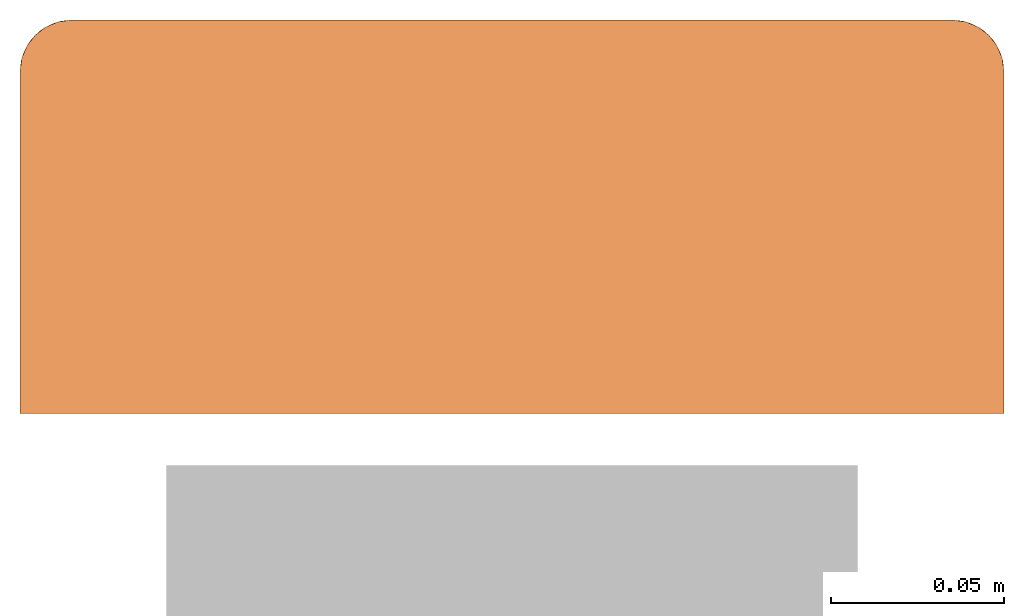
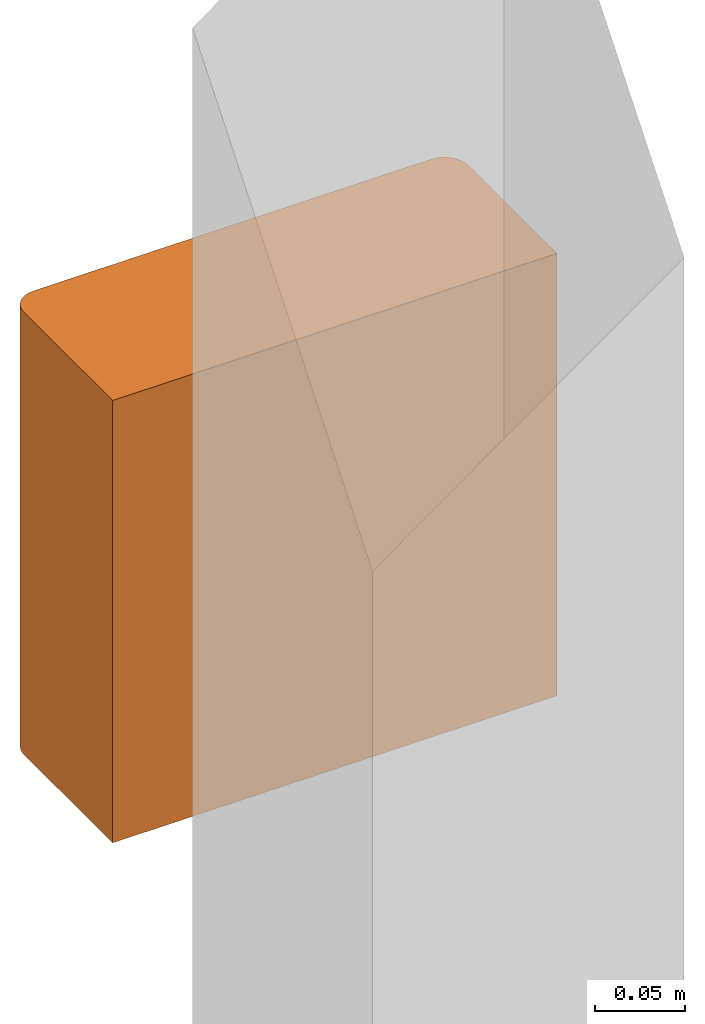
# One storey, part 2 of 2: 1 proxy.
"""IFC2X3 building model written with IfcOpenShell, lengths in millimetres."""

from ifc_helpers import new_model, entity, si_unit, converted_unit, derived_unit, direction, frame, origin, place, context, subcontext, project, spatial, faceted_brep, source, transform, mapped, element, save


model = new_model("IFC2X3")

# Units and contexts
model_context = context("Model", 3, precision=0.01, world=origin(), true_north=direction((6.12303176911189e-17, 1.0)))
context_of_model = context(None, 3, precision=0.01, world=origin(), true_north=direction((6.12303176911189e-17, 1.0)))
body_context = subcontext(model_context, "Body", "Model", "MODEL_VIEW")
ifc_project = project(units=[si_unit("LENGTHUNIT", "METRE", prefix="MILLI"), si_unit("AREAUNIT", "SQUARE_METRE"), si_unit("VOLUMEUNIT", "CUBIC_METRE"), converted_unit("PLANEANGLEUNIT", "DEGREE", entity("IfcRatioMeasure", 0.0174532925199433), si_unit("PLANEANGLEUNIT", "RADIAN"), dimensions=[0, 0, 0, 0, 0, 0, 0]), si_unit("MASSUNIT", "GRAM", prefix="KILO"), si_unit("TIMEUNIT", "SECOND"), si_unit("FREQUENCYUNIT", "HERTZ"), si_unit("THERMODYNAMICTEMPERATUREUNIT", "DEGREE_CELSIUS"), derived_unit("THERMALTRANSMITTANCEUNIT", [(si_unit("MASSUNIT", "GRAM", prefix="KILO"), 1), (si_unit("THERMODYNAMICTEMPERATUREUNIT", "KELVIN"), -1), (si_unit("TIMEUNIT", "SECOND"), -3)]), derived_unit("VOLUMETRICFLOWRATEUNIT", [(si_unit("LENGTHUNIT", "METRE"), 3), (si_unit("TIMEUNIT", "SECOND"), -1)]), si_unit("ELECTRICCURRENTUNIT", "AMPERE"), si_unit("ELECTRICVOLTAGEUNIT", "VOLT"), si_unit("POWERUNIT", "WATT"), si_unit("FORCEUNIT", "NEWTON", prefix="KILO"), si_unit("ILLUMINANCEUNIT", "LUX"), si_unit("LUMINOUSFLUXUNIT", "LUMEN"), si_unit("LUMINOUSINTENSITYUNIT", "CANDELA"), si_unit("PRESSUREUNIT", "PASCAL")], contexts=[model_context, context_of_model])

# Site, building, storey
site_placement = place(None, origin())
site = spatial("IfcSite", under=ifc_project, at=site_placement, Name="Default", CompositionType="ELEMENT")
building_placement = place(site_placement, origin())
building = spatial("IfcBuilding", under=site, at=building_placement, CompositionType="ELEMENT")
storey_placement = place(building_placement, origin())
storey = spatial("IfcBuildingStorey", under=building, at=storey_placement, Name="Level 1", CompositionType="ELEMENT", Elevation=0.0)

# Proxy
shared_shape = source(origin(), body_context, "Body", "Brep", [
    faceted_brep([(16.5952722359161, 114.0, 300.0), (12.7129865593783, 113.488887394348, 300.0), (9.09527223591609, 111.990381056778, 300.0), (5.98867051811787, 109.60660171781, 300.0), (3.60489117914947, 106.500000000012, 300.0), (2.10638484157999, 102.882285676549, 300.0), (1.595272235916, 99.0, 300.0), (1.595272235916, 0.0, 300.0), (286.595272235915, 0.0, 300.0), (286.595272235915, 99.0, 300.0), (286.084159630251, 102.882285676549, 300.0), (284.585653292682, 106.500000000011, 300.0), (282.201873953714, 109.60660171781, 300.0), (279.095272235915, 111.990381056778, 300.0), (275.477557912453, 113.488887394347, 300.0), (271.595272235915, 114.0, 300.0), (286.595272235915, 99.0, 0.0), (286.595272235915, 0.0, 0.0), (1.595272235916, 0.0, 0.0), (1.595272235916, 99.0, 0.0), (2.10638484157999, 102.882285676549, 0.0), (3.60489117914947, 106.500000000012, 0.0), (5.98867051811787, 109.60660171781, 0.0), (9.09527223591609, 111.990381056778, 0.0), (12.7129865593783, 113.488887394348, 0.0), (16.595272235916, 114.0, 0.0), (271.595272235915, 114.0, 0.0), (275.477557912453, 113.488887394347, 0.0), (279.095272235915, 111.990381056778, 0.0), (282.201873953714, 109.60660171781, 0.0), (284.585653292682, 106.500000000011, 0.0), (286.084159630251, 102.882285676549, 0.0), (286.595272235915, 99.0, 150.0), (285.453465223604, 104.740251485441, 150.0), (277.335523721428, 112.858192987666, 150.0), (280.726693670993, 110.900300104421, 88.1971478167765), (280.726693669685, 110.900300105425, 192.984169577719), (283.495572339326, 108.13142143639, 211.802852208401), (283.495572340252, 108.131421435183, 107.015830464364), (286.307051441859, 101.926354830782, 96.3438869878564), (274.521627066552, 113.711779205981, 203.65611301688), (286.307051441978, 101.926354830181, 190.299074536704), (271.595272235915, 114.0, 150.0), (274.521627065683, 113.711779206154, 109.700925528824), (234.479355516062, 114.0, 220.152585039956), (223.32329098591, 114.0, 222.841789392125), (237.950279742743, 114.0, 218.502181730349), (240.887887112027, 114.0, 216.023954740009), (243.099325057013, 114.0, 212.88059852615), (244.439413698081, 114.0, 209.278472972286), (244.820176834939, 114.0, 205.454055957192), (212.167226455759, 114.0, 225.530993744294), (201.011161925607, 114.0, 228.220198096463), (189.855097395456, 114.0, 230.909402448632), (178.415141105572, 114.0, 231.813280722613), (166.975184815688, 114.0, 232.717158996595), (155.535228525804, 114.0, 233.621037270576), (144.09527223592, 114.0, 234.524915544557), (244.216617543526, 114.0, 201.6584186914), (242.668359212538, 114.0, 198.140743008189), (240.277044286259, 114.0, 195.131962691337), (237.199661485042, 114.0, 192.829602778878), (233.638239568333, 114.0, 191.384812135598), (229.826584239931, 114.0, 190.892440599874), (144.095272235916, 114.0, 190.892440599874), (58.363960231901, 114.0, 190.892440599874), (54.5523049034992, 114.0, 191.384812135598), (50.9908829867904, 114.0, 192.829602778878), (47.9135001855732, 114.0, 195.131962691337), (45.522185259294, 114.0, 198.140743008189), (43.9739269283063, 114.0, 201.6584186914), (43.3703676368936, 114.0, 205.454055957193), (16.5952722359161, 114.0, 150.000024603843), (132.655315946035, 114.0, 233.621037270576), (43.751130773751, 114.0, 209.278472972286), (45.0912194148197, 114.0, 212.88059852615), (47.302657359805, 114.0, 216.023954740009), (50.2402647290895, 114.0, 218.502181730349), (53.7111889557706, 114.0, 220.152585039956), (64.8672534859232, 114.0, 222.841789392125), (76.0233180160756, 114.0, 225.530993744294), (87.179382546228, 114.0, 228.220198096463), (98.3354470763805, 114.0, 230.909402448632), (121.21535965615, 114.0, 232.717158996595), (109.775403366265, 114.0, 231.813280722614), (10.8550207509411, 112.858192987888, 150.0), (2.73707924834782, 104.740251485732, 150.0), (4.69497213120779, 108.1314214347, 88.1971477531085), (4.69497212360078, 108.131421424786, 192.984169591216), (7.46385078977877, 110.900300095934, 211.802852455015), (7.46385080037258, 110.900300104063, 107.015830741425), (13.6689173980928, 113.711779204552, 96.3438873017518), (1.88349303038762, 101.926354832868, 203.656112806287), (13.6689174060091, 113.711779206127, 190.299075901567), (1.595272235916, 99.0, 150.000226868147), (1.88349302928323, 101.926354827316, 109.700924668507), (234.479355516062, 112.0, 220.152585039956), (225.434980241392, 112.0, 222.332760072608), (212.167226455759, 112.0, 225.530993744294), (201.011161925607, 112.0, 228.220198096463), (189.855097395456, 112.0, 230.909402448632), (178.415141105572, 112.0, 231.813280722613), (166.975184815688, 112.0, 232.717158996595), (155.535228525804, 112.0, 233.621037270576), (144.09527223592, 112.0, 234.524915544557), (134.820742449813, 112.0, 233.792129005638), (121.21535965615, 112.0, 232.717158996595), (109.775403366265, 112.0, 231.813280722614), (98.3354470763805, 112.0, 230.909402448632), (87.179382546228, 112.0, 228.220198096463), (76.0233180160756, 112.0, 225.530993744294), (64.8672534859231, 112.0, 222.841789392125), (53.7111889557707, 112.0, 220.152585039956), (50.2402647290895, 112.0, 218.502181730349), (47.302657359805, 112.0, 216.023954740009), (45.0912194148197, 112.0, 212.88059852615), (43.751130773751, 112.0, 209.278472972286), (43.3703676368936, 112.0, 205.454055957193), (43.9739269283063, 112.0, 201.6584186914), (45.5221852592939, 112.0, 198.140743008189), (47.9135001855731, 112.0, 195.131962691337), (50.9908829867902, 112.0, 192.829602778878), (54.552304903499, 112.0, 191.384812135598), (58.3639602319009, 112.0, 190.892440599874), (144.095272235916, 112.0, 190.892440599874), (229.826584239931, 112.0, 190.892440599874), (233.638239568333, 112.0, 191.384812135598), (237.199661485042, 112.0, 192.829602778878), (240.277044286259, 112.0, 195.131962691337), (242.668359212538, 112.0, 198.140743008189), (244.216617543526, 112.0, 201.6584186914), (244.820176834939, 112.0, 205.454055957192), (244.439413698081, 112.0, 209.278472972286), (243.099325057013, 112.0, 212.88059852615), (240.887887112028, 112.0, 216.023954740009), (237.950279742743, 112.0, 218.502181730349), (3.595272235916, 2.0, 298.0), (3.595272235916, 97.0, 298.0), (4.10638484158, 100.882285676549, 298.0), (5.60489117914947, 104.500000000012, 298.0), (7.98867051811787, 107.60660171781, 298.0), (11.0952722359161, 109.990381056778, 298.0), (14.7129865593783, 111.488887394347, 298.0), (18.595272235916, 112.0, 298.0), (269.595272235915, 112.0, 298.0), (273.477557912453, 111.488887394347, 298.0), (277.095272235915, 109.990381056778, 298.0), (280.201873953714, 107.60660171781, 298.0), (282.585653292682, 104.500000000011, 298.0), (284.084159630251, 100.882285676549, 298.0), (284.595272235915, 97.0, 298.0), (284.595272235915, 2.0, 298.0), (273.477557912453, 111.488887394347, 2.0), (269.595272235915, 112.0, 2.0), (18.5952722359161, 112.0, 2.0), (14.7129865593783, 111.488887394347, 2.0), (11.0952722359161, 109.990381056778, 2.0), (7.98867051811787, 107.60660171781, 2.0), (5.60489117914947, 104.500000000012, 2.0), (4.10638484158, 100.882285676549, 2.0), (3.595272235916, 97.0, 2.0), (3.595272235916, 2.0, 2.0), (284.595272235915, 2.0, 2.0), (284.595272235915, 97.0, 2.0), (284.084159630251, 100.882285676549, 2.0), (282.585653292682, 104.500000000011, 2.0), (280.201873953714, 107.60660171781, 2.0), (277.095272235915, 109.990381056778, 2.0), (284.595272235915, 97.0, 150.0), (283.453465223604, 102.740251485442, 150.0), (278.726693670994, 108.90030010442, 88.330609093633), (275.335523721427, 110.858192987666, 150.0), (281.495572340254, 106.131421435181, 108.448476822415), (281.495572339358, 106.131421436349, 211.669390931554), (278.726693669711, 108.900300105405, 191.551523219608), (284.307051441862, 99.9263548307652, 97.6323178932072), (272.521627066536, 111.711779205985, 202.367682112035), (284.307051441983, 99.9263548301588, 192.59485574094), (272.521627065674, 111.711779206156, 107.405144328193), (269.595272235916, 112.0, 150.0), (18.5952722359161, 112.0, 150.0), (12.8550207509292, 110.858192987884, 150.0), (6.69497213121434, 106.131421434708, 88.3306090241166), (4.73707924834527, 102.740251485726, 150.0), (9.46385080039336, 108.900300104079, 108.448477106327), (9.46385079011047, 108.900300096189, 211.669391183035), (6.69497212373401, 106.13142142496, 191.551523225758), (15.6689173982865, 111.71177920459, 97.6323182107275), (3.88349303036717, 99.9263548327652, 202.367681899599), (15.6689174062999, 111.711779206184, 192.594857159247), (3.88349302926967, 99.9263548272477, 107.405143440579), (3.59527223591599, 97.0, 150.0)], [[[0, 1, 2, 3, 4, 5, 6, 7, 8, 9, 10, 11, 12, 13, 14, 15]], [[16, 17, 18, 19, 20, 21, 22, 23, 24, 25, 26, 27, 28, 29, 30, 31]], [[8, 17, 16, 32, 9]], [[33, 31, 30]], [[34, 35, 28]], [[36, 37, 38, 35]], [[38, 33, 30]], [[30, 29, 38]], [[39, 31, 33]], [[40, 15, 14]], [[41, 9, 32, 16, 39]], [[11, 10, 33]], [[31, 39, 16]], [[33, 38, 37]], [[34, 28, 27]], [[38, 29, 35]], [[37, 36, 12]], [[26, 42, 15, 40, 43]], [[29, 28, 35]], [[36, 34, 13]], [[34, 14, 13]], [[34, 40, 14]], [[11, 37, 12]], [[34, 36, 35]], [[33, 37, 11]], [[36, 13, 12]], [[41, 39, 33]], [[33, 10, 41]], [[9, 41, 10]], [[43, 40, 34]], [[34, 27, 43]], [[26, 43, 27]], [[15, 44, 45]], [[44, 15, 46]], [[47, 46, 15]], [[48, 47, 15]], [[49, 48, 15]], [[15, 50, 49]], [[50, 15, 42]], [[15, 45, 51]], [[15, 51, 52]], [[15, 52, 53]], [[15, 53, 54]], [[15, 54, 55]], [[15, 55, 56]], [[15, 56, 57]], [[15, 57, 0]], [[50, 42, 26]], [[58, 50, 26]], [[58, 26, 59]], [[60, 59, 26]], [[26, 61, 60]], [[61, 26, 62]], [[63, 62, 26]], [[26, 64, 63]], [[64, 26, 25]], [[65, 64, 25]], [[25, 66, 65]], [[66, 25, 67]], [[68, 67, 25]], [[68, 25, 69]], [[70, 69, 25]], [[70, 25, 71]], [[71, 25, 72]], [[71, 72, 0]], [[0, 57, 73]], [[74, 71, 0]], [[75, 74, 0]], [[76, 75, 0]], [[0, 77, 76]], [[77, 0, 78]], [[0, 79, 78]], [[0, 80, 79]], [[0, 81, 80]], [[0, 82, 81]], [[0, 73, 83]], [[0, 83, 84]], [[0, 84, 82]], [[85, 24, 23]], [[86, 87, 21]], [[88, 89, 90, 87]], [[90, 85, 23]], [[23, 22, 90]], [[91, 24, 85]], [[92, 6, 5]], [[93, 0, 72, 25, 91]], [[2, 1, 85]], [[24, 91, 25]], [[85, 90, 89]], [[86, 21, 20]], [[90, 22, 87]], [[89, 88, 3]], [[19, 94, 6, 92, 95]], [[22, 21, 87]], [[88, 86, 4]], [[86, 5, 4]], [[86, 92, 5]], [[2, 89, 3]], [[86, 88, 87]], [[85, 89, 2]], [[88, 4, 3]], [[93, 91, 85]], [[85, 1, 93]], [[0, 93, 1]], [[95, 92, 86]], [[86, 20, 95]], [[19, 95, 20]], [[7, 6, 94, 19, 18]], [[8, 7, 18, 17]], [[45, 44, 96, 97, 98, 99, 100, 53, 52, 51]], [[56, 55, 54, 53, 100, 101, 102, 103, 104, 57]], [[73, 57, 104, 105, 106, 107, 108, 82, 84, 83]], [[79, 80, 81, 82, 108, 109, 110, 111, 112, 78]], [[77, 78, 112, 113]], [[77, 113, 114, 76]], [[74, 75, 115, 116]], [[115, 75, 76, 114]], [[71, 74, 116, 117]], [[117, 118, 70, 71]], [[70, 118, 119, 69]], [[69, 119, 120, 68]], [[66, 67, 121, 122]], [[121, 67, 68, 120]], [[65, 66, 122, 123]], [[65, 123, 124, 125, 63, 64]], [[62, 63, 125, 126]], [[62, 126, 127, 61]], [[59, 60, 128, 129]], [[128, 60, 61, 127]], [[58, 59, 129, 130]], [[130, 131, 50, 58]], [[50, 131, 132, 49]], [[49, 132, 133, 48]], [[46, 47, 134, 135]], [[134, 47, 48, 133]], [[44, 46, 135, 96]], [[136, 137, 138, 139, 140, 141, 142, 143, 144, 145, 146, 147, 148, 149, 150, 151]], [[152, 153, 154, 155, 156, 157, 158, 159, 160, 161, 162, 163, 164, 165, 166, 167]], [[162, 151, 150, 168, 163]], [[165, 164, 169]], [[167, 170, 171]], [[172, 173, 174, 170]], [[165, 169, 172]], [[172, 166, 165]], [[169, 164, 175]], [[145, 144, 176]], [[168, 150, 177, 175, 163]], [[169, 149, 148]], [[163, 175, 164]], [[173, 172, 169]], [[152, 167, 171]], [[170, 166, 172]], [[147, 174, 173]], [[178, 176, 144, 179, 153]], [[170, 167, 166]], [[146, 171, 174]], [[146, 145, 171]], [[145, 176, 171]], [[147, 173, 148]], [[170, 174, 171]], [[148, 173, 169]], [[147, 146, 174]], [[169, 175, 177]], [[177, 149, 169]], [[149, 177, 150]], [[171, 176, 178]], [[178, 152, 171]], [[152, 178, 153]], [[144, 100, 99]], [[144, 99, 98]], [[144, 98, 97]], [[144, 97, 96]], [[135, 144, 96]], [[144, 135, 134]], [[144, 134, 133]], [[144, 133, 132]], [[132, 131, 144]], [[144, 101, 100]], [[144, 102, 101]], [[144, 103, 102]], [[144, 104, 103]], [[143, 104, 144]], [[131, 179, 144]], [[143, 105, 104]], [[143, 106, 105]], [[143, 107, 106]], [[143, 108, 107]], [[143, 109, 108]], [[143, 110, 109]], [[143, 111, 110]], [[143, 112, 111]], [[112, 143, 113]], [[114, 113, 143]], [[143, 115, 114]], [[143, 116, 115]], [[143, 117, 116]], [[117, 143, 180]], [[117, 180, 154]], [[117, 154, 118]], [[154, 119, 118]], [[119, 154, 120]], [[154, 121, 120]], [[121, 154, 122]], [[123, 122, 154]], [[154, 124, 123]], [[154, 153, 124]], [[153, 131, 130]], [[129, 153, 130]], [[153, 129, 128]], [[128, 127, 153]], [[126, 153, 127]], [[153, 126, 125]], [[125, 124, 153]], [[131, 153, 179]], [[156, 155, 181]], [[158, 182, 183]], [[184, 185, 186, 182]], [[156, 181, 184]], [[184, 157, 156]], [[181, 155, 187]], [[138, 137, 188]], [[180, 143, 189, 187, 154]], [[181, 142, 141]], [[154, 187, 155]], [[185, 184, 181]], [[159, 158, 183]], [[182, 157, 184]], [[140, 186, 185]], [[190, 188, 137, 191, 160]], [[182, 158, 157]], [[139, 183, 186]], [[139, 138, 183]], [[138, 188, 183]], [[140, 185, 141]], [[182, 186, 183]], [[141, 185, 181]], [[140, 139, 186]], [[181, 187, 189]], [[189, 142, 181]], [[142, 189, 143]], [[183, 188, 190]], [[190, 159, 183]], [[159, 190, 160]], [[161, 160, 191, 137, 136]], [[161, 136, 151, 162]]]),
])
proxy_placement = place(storey_placement, frame((-62.8878939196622, -522.818050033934, 1000.0)))
element("IfcBuildingElementProxy", 1, at=proxy_placement, inside=storey, Name="14709202100b:d_line_Washroom_WallMountedSanitaryPanels_ToiletSeatCoverDispenser", ObjectType="d_line_Washroom_WallMountedSanitaryPanels_ToiletSeatCoverDispenser", CompositionType="ELEMENT", context=body_context, shape_type="MappedRepresentation", body=[
    mapped(shared_shape, transform((0.0, 0.0, 0.0), scale=1.0)),
])

save(model, "model.ifc")
